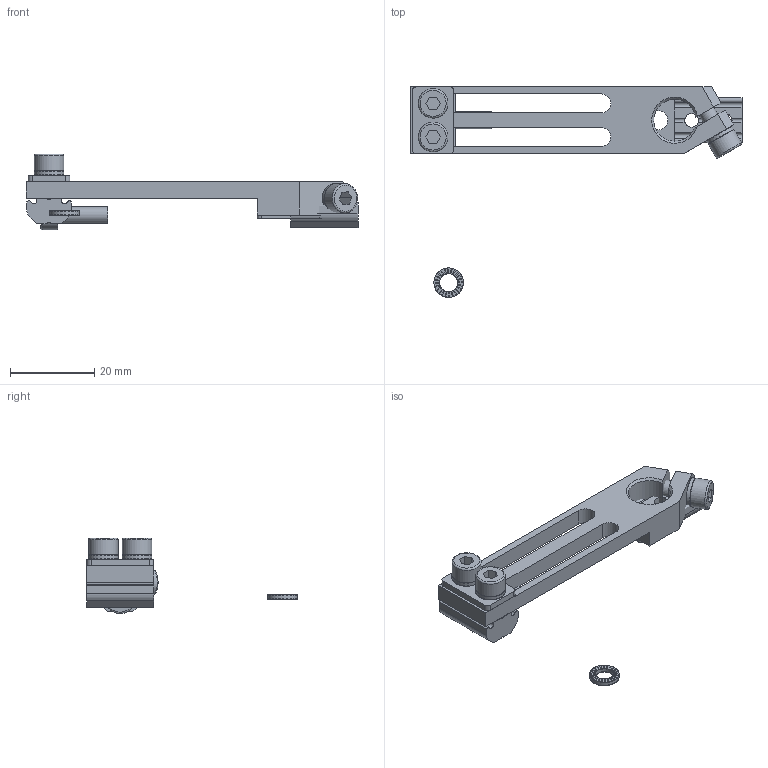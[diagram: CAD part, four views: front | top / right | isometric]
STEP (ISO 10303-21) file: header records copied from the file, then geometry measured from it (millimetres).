
FILE_DESCRIPTION( ( 'STEP AP214' ), '1' );
FILE_NAME( 'C:/Users/Segreteria/Desktop/CA.WSL.1040.U.L.stp', '2014-07-10T09:23:30', ( ' ' ), ( ' ' ), 'XStep 1.0', ' ', ' ' );
FILE_SCHEMA( ( 'CONFIG_CONTROL_DESIGN) ( )' ) );
Length unit declared in the file: metre
Products named in the file (9): Assem1; Assem2; WSL.1040.U; R.4.SCH; V-tcei M  4 x 12; R.04.08; CA.GWP.4.8
Bounding box: 79 x 50.14 x 18 mm (x, y, z)
Volume: 13622.7 mm3; surface area: 15683.4 mm2
Topology: 14 solids, 19 shells, 1240 faces, 3594 edges, 2383 vertices
Faces by surface type: plane 1128, cylinder 85, torus 14, cone 13
Full cylindrical faces by diameter (mm): 3.242 x7, 4 x7, 4.2 x3, 4.3 x5, 4.6 x4, 7 x12
Entity records: 10090 total; most frequent: CARTESIAN_POINT 1810, DIRECTION 1728, ORIENTED_EDGE 1678, EDGE_CURVE 839, AXIS2_PLACEMENT_3D 583, VERTEX_POINT 569, LINE 562, VECTOR 562
